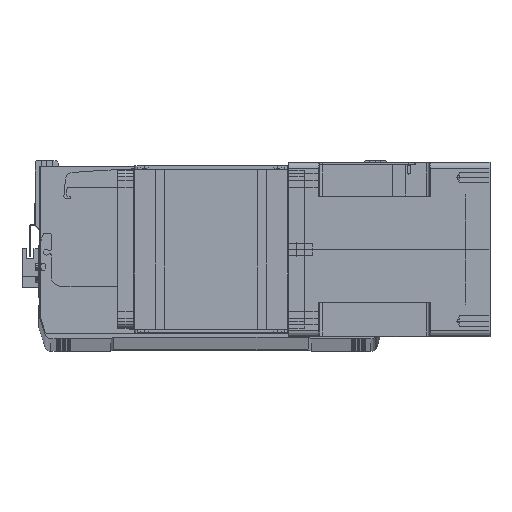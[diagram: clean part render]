
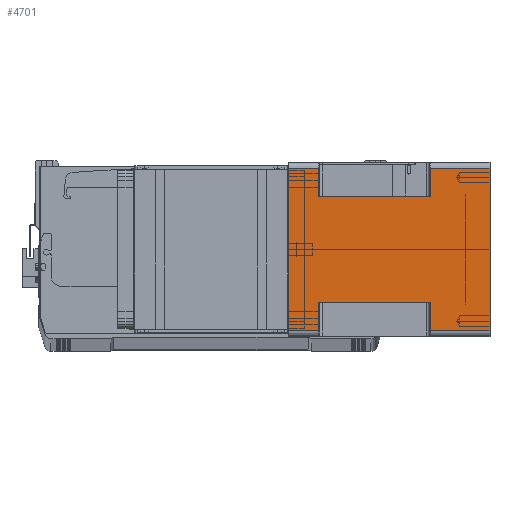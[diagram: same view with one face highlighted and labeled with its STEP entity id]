
A CAD part, top view. The second image highlights one B-rep face of the part: STEP entity #4701.
In plain terms, the highlighted planar face has unit normal (0, 0, 1) as drawn and (1, 0, 0) by its records, which use the part's own axes.
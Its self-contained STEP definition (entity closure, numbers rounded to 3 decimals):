
#151 = DIRECTION ( 'NONE',  ( 1., 0., 0. ) ) ;
#382 = ORIENTED_EDGE ( 'NONE', *, *, #2957, .T. ) ;
#1564 = DIRECTION ( 'NONE',  ( 0., 0., 1. ) ) ;
#1673 = EDGE_CURVE ( 'NONE', #8678, #24633, #28016, .T. ) ;
#2324 = VERTEX_POINT ( 'NONE', #41803 ) ;
#2442 = ORIENTED_EDGE ( 'NONE', *, *, #28296, .F. ) ;
#2474 = EDGE_CURVE ( 'NONE', #8678, #24907, #19037, .T. ) ;
#2904 = VECTOR ( 'NONE', #15484, 1000. ) ;
#2957 = EDGE_CURVE ( 'NONE', #10379, #24907, #33661, .T. ) ;
#3042 = ORIENTED_EDGE ( 'NONE', *, *, #40889, .T. ) ;
#4701 = ADVANCED_FACE ( 'NONE', ( #34473 ), #19563, .T. ) ;
#5061 = DIRECTION ( 'NONE',  ( 0., 0., 1. ) ) ;
#5188 = VECTOR ( 'NONE', #29430, 1000. ) ;
#5655 = EDGE_CURVE ( 'NONE', #7607, #24633, #35389, .T. ) ;
#5712 = ORIENTED_EDGE ( 'NONE', *, *, #25447, .T. ) ;
#5876 = EDGE_CURVE ( 'NONE', #21703, #36838, #15157, .T. ) ;
#6765 = VECTOR ( 'NONE', #32135, 1000. ) ;
#6821 = DIRECTION ( 'NONE',  ( 0., 1., 0. ) ) ;
#7010 = EDGE_LOOP ( 'NONE', ( #41705, #7237, #11332, #17886, #27245, #29827, #23160, #5712, #3042, #12026, #2442, #382 ) ) ;
#7047 = DIRECTION ( 'NONE',  ( 0., 0., 1. ) ) ;
#7178 = LINE ( 'NONE', #40822, #36077 ) ;
#7237 = ORIENTED_EDGE ( 'NONE', *, *, #1673, .T. ) ;
#7607 = VERTEX_POINT ( 'NONE', #39814 ) ;
#8270 = CARTESIAN_POINT ( 'NONE',  ( 71., 66., -24.5 ) ) ;
#8358 = VECTOR ( 'NONE', #39102, 1000. ) ;
#8678 = VERTEX_POINT ( 'NONE', #30359 ) ;
#8966 = CARTESIAN_POINT ( 'NONE',  ( 71., 66., -164. ) ) ;
#9083 = VECTOR ( 'NONE', #7047, 1000. ) ;
#9243 = VECTOR ( 'NONE', #34269, 1000. ) ;
#9933 = CARTESIAN_POINT ( 'NONE',  ( 71., -43., -24.5 ) ) ;
#10379 = VERTEX_POINT ( 'NONE', #38686 ) ;
#10601 = CARTESIAN_POINT ( 'NONE',  ( 71., 43., -115.5 ) ) ;
#10692 = VERTEX_POINT ( 'NONE', #38508 ) ;
#11124 = CARTESIAN_POINT ( 'NONE',  ( 71., -43., -164. ) ) ;
#11289 = DIRECTION ( 'NONE',  ( 0., 1., 0. ) ) ;
#11332 = ORIENTED_EDGE ( 'NONE', *, *, #5655, .F. ) ;
#11367 = DIRECTION ( 'NONE',  ( 0., 1., 0. ) ) ;
#11600 = EDGE_CURVE ( 'NONE', #10692, #36838, #21899, .T. ) ;
#11844 = CARTESIAN_POINT ( 'NONE',  ( 71., 43., -24.5 ) ) ;
#12026 = ORIENTED_EDGE ( 'NONE', *, *, #24457, .F. ) ;
#12077 = CARTESIAN_POINT ( 'NONE',  ( 71., -66., -115.5 ) ) ;
#13159 = VECTOR ( 'NONE', #11289, 1000. ) ;
#13322 = VECTOR ( 'NONE', #5061, 1000. ) ;
#15157 = LINE ( 'NONE', #36762, #32361 ) ;
#15484 = DIRECTION ( 'NONE',  ( 0., 0., 1. ) ) ;
#16224 = CARTESIAN_POINT ( 'NONE',  ( 71., -66., -164. ) ) ;
#17613 = LINE ( 'NONE', #8966, #2904 ) ;
#17886 = ORIENTED_EDGE ( 'NONE', *, *, #20430, .T. ) ;
#18197 = LINE ( 'NONE', #24452, #13159 ) ;
#18279 = CARTESIAN_POINT ( 'NONE',  ( 71., 66., -164. ) ) ;
#18585 = CARTESIAN_POINT ( 'NONE',  ( 71., -66., -115.5 ) ) ;
#19037 = LINE ( 'NONE', #11124, #35239 ) ;
#19563 = PLANE ( 'NONE',  #20887 ) ;
#19976 = CARTESIAN_POINT ( 'NONE',  ( 71., -43., -24.5 ) ) ;
#20430 = EDGE_CURVE ( 'NONE', #7607, #31936, #31128, .T. ) ;
#20887 = AXIS2_PLACEMENT_3D ( 'NONE', #16224, #151, #6821 ) ;
#21703 = VERTEX_POINT ( 'NONE', #11844 ) ;
#21899 = LINE ( 'NONE', #10601, #5188 ) ;
#23160 = ORIENTED_EDGE ( 'NONE', *, *, #5876, .F. ) ;
#24388 = EDGE_CURVE ( 'NONE', #31936, #10692, #33547, .T. ) ;
#24452 = CARTESIAN_POINT ( 'NONE',  ( 71., -66., -24.5 ) ) ;
#24457 = EDGE_CURVE ( 'NONE', #2324, #24768, #7178, .T. ) ;
#24633 = VERTEX_POINT ( 'NONE', #12077 ) ;
#24768 = VERTEX_POINT ( 'NONE', #31949 ) ;
#24907 = VERTEX_POINT ( 'NONE', #19976 ) ;
#24910 = CARTESIAN_POINT ( 'NONE',  ( 71., -66., -164. ) ) ;
#25364 = CARTESIAN_POINT ( 'NONE',  ( 71., 43., -115.5 ) ) ;
#25447 = EDGE_CURVE ( 'NONE', #21703, #36383, #18197, .T. ) ;
#25484 = CARTESIAN_POINT ( 'NONE',  ( 71., -66., -164. ) ) ;
#26069 = CARTESIAN_POINT ( 'NONE',  ( 71., 66., -164. ) ) ;
#27245 = ORIENTED_EDGE ( 'NONE', *, *, #24388, .T. ) ;
#28016 = LINE ( 'NONE', #18585, #35606 ) ;
#28296 = EDGE_CURVE ( 'NONE', #10379, #2324, #31554, .T. ) ;
#29430 = DIRECTION ( 'NONE',  ( 0., -1., 0. ) ) ;
#29827 = ORIENTED_EDGE ( 'NONE', *, *, #11600, .T. ) ;
#30359 = CARTESIAN_POINT ( 'NONE',  ( 71., -43., -115.5 ) ) ;
#31128 = LINE ( 'NONE', #25484, #6765 ) ;
#31554 = LINE ( 'NONE', #24910, #13322 ) ;
#31936 = VERTEX_POINT ( 'NONE', #26069 ) ;
#31949 = CARTESIAN_POINT ( 'NONE',  ( 71., 66., 0. ) ) ;
#32135 = DIRECTION ( 'NONE',  ( 0., 1., 0. ) ) ;
#32361 = VECTOR ( 'NONE', #33651, 1000. ) ;
#32843 = CARTESIAN_POINT ( 'NONE',  ( 71., -66., -164. ) ) ;
#33547 = LINE ( 'NONE', #18279, #9243 ) ;
#33651 = DIRECTION ( 'NONE',  ( 0., 0., -1. ) ) ;
#33661 = LINE ( 'NONE', #9933, #8358 ) ;
#34269 = DIRECTION ( 'NONE',  ( 0., 0., 1. ) ) ;
#34473 = FACE_OUTER_BOUND ( 'NONE', #7010, .T. ) ;
#35239 = VECTOR ( 'NONE', #1564, 1000. ) ;
#35389 = LINE ( 'NONE', #32843, #9083 ) ;
#35606 = VECTOR ( 'NONE', #41289, 1000. ) ;
#36077 = VECTOR ( 'NONE', #11367, 1000. ) ;
#36383 = VERTEX_POINT ( 'NONE', #8270 ) ;
#36762 = CARTESIAN_POINT ( 'NONE',  ( 71., 43., -164. ) ) ;
#36838 = VERTEX_POINT ( 'NONE', #25364 ) ;
#38508 = CARTESIAN_POINT ( 'NONE',  ( 71., 66., -115.5 ) ) ;
#38686 = CARTESIAN_POINT ( 'NONE',  ( 71., -66., -24.5 ) ) ;
#39102 = DIRECTION ( 'NONE',  ( 0., 1., 0. ) ) ;
#39814 = CARTESIAN_POINT ( 'NONE',  ( 71., -66., -164. ) ) ;
#40822 = CARTESIAN_POINT ( 'NONE',  ( 71., -66., 0. ) ) ;
#40889 = EDGE_CURVE ( 'NONE', #36383, #24768, #17613, .T. ) ;
#41289 = DIRECTION ( 'NONE',  ( 0., -1., 0. ) ) ;
#41705 = ORIENTED_EDGE ( 'NONE', *, *, #2474, .F. ) ;
#41803 = CARTESIAN_POINT ( 'NONE',  ( 71., -66., 0. ) ) ;
